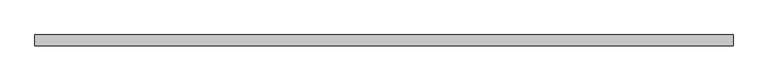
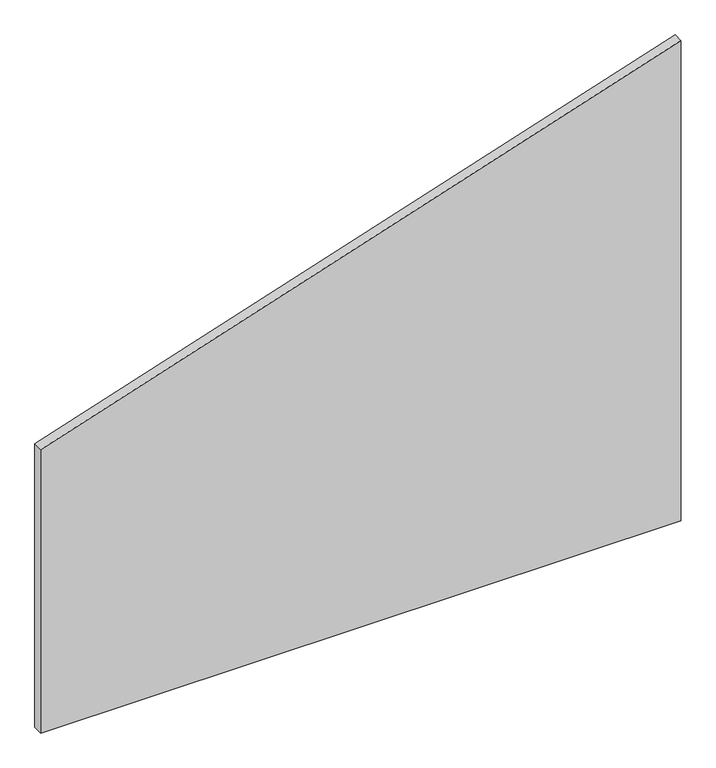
"""IFC4 building model written with IfcOpenShell, lengths in millimetres: plate geometry, Системная панель : ADSK_Cтеклопакет_25 мм."""

from ifc_helpers import new_model, si_unit, frame, origin, place, context, project, spatial, polyline, outline, extrude, source, transform, mapped, element, save


def plate_59a72077(model_context):
    return source(origin(), model_context, "Body", "SweptSolid", [
        extrude(outline(polyline([(0.0, -815.0), (0.0, 815.0), (1292.0914049, 815.0), (762.4723, -815.0), (0.0, -815.0)])), frame((0.0, -12.5, 0.0), z_axis=(0.0, 1.0, 0.0), x_axis=(0.0, 0.0, 1.0)), (0.0, 0.0, 1.0), 25.0),
    ])


if __name__ == "__main__":
    model = new_model("IFC4")
    model_context = context("Model", 3, world=origin())
    ifc_project = project(units=[si_unit("LENGTHUNIT", "METRE", prefix="MILLI")], contexts=[model_context])
    site = spatial("IfcSite", under=ifc_project)
    building = spatial("IfcBuilding", under=site)
    placement = place(None, origin())
    plate_shape = plate_59a72077(model_context)
    element("IfcPlate", 1, ObjectType="Системная панель : ADSK_Cтеклопакет_25 мм", at=placement, inside=building, context=model_context, shape_type="MappedRepresentation", body=[
        mapped(plate_shape, transform((0.0, 0.0, 0.0), x_axis=(1.0, 0.0, 0.0), y_axis=(0.0, 1.0, 0.0), z_axis=(0.0, 0.0, 1.0))),
    ])
    save(model, "model.ifc")
